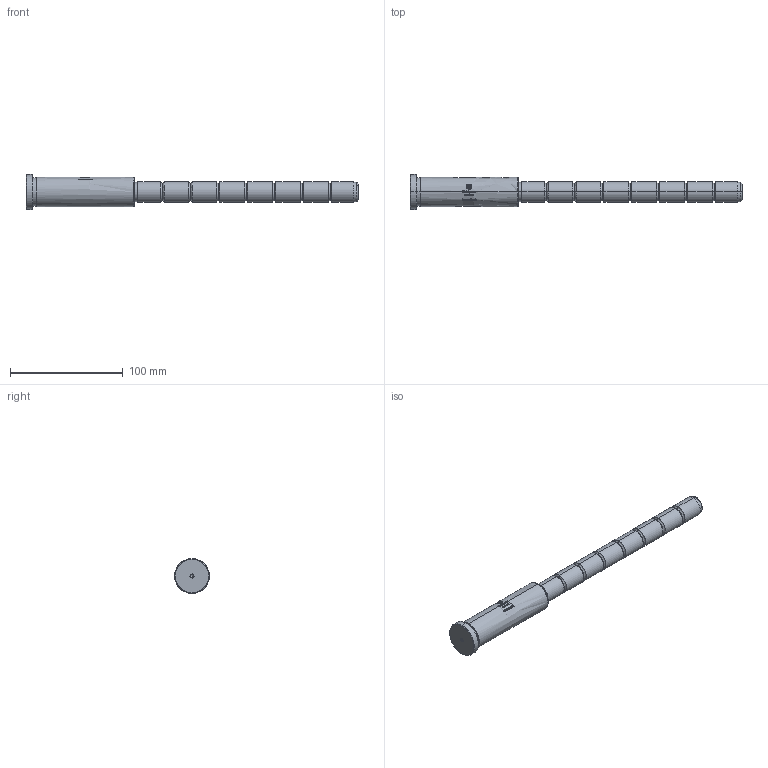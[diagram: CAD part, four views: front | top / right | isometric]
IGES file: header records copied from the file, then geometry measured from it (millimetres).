
Start section: SolidWorks IGES file using analytic representation for surfaces
Global section: file name: C:\Users\User\Downloads\CFM - 08-09\CFM  - Nova\18\CFM18096198.IGS; native system: SolidWorks 2024; preprocessor: SolidWorks 2024; author: User; date: 260909.103922; units: millimetre
Bounding box: 294 x 31 x 31 mm (x, y, z)
Surface area: 21193.8 mm2 (no closed solid volume)
Topology: 0 solids, 0 shells, 534 faces, 5002 edges, 4998 vertices
Faces by surface type: bspline 424, revolution 110
